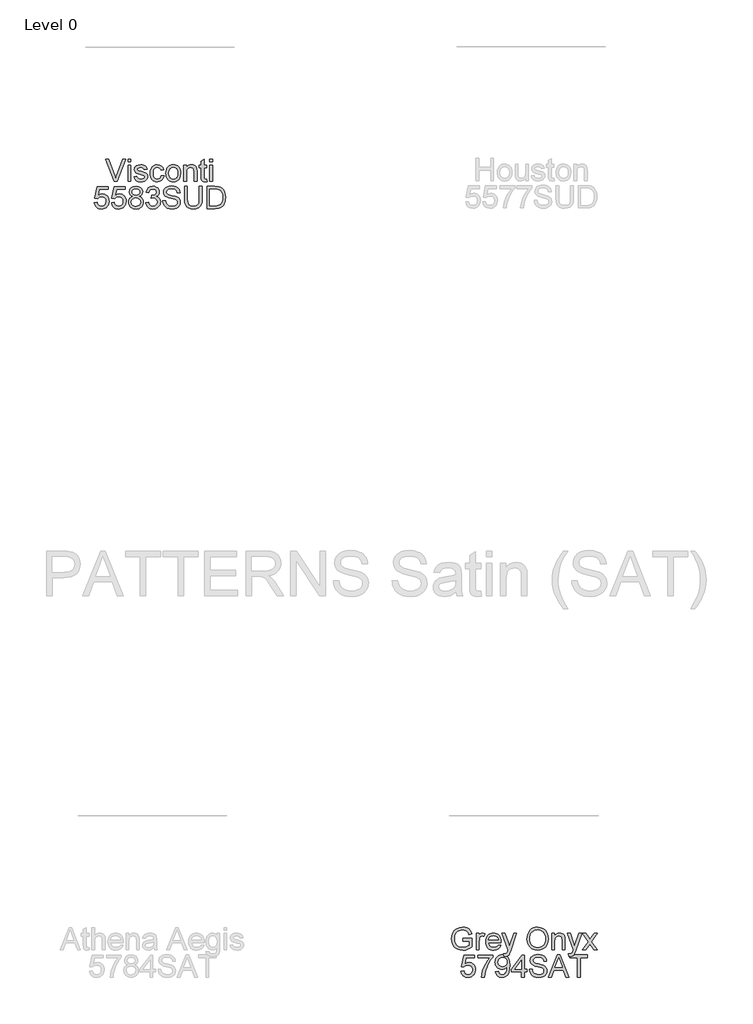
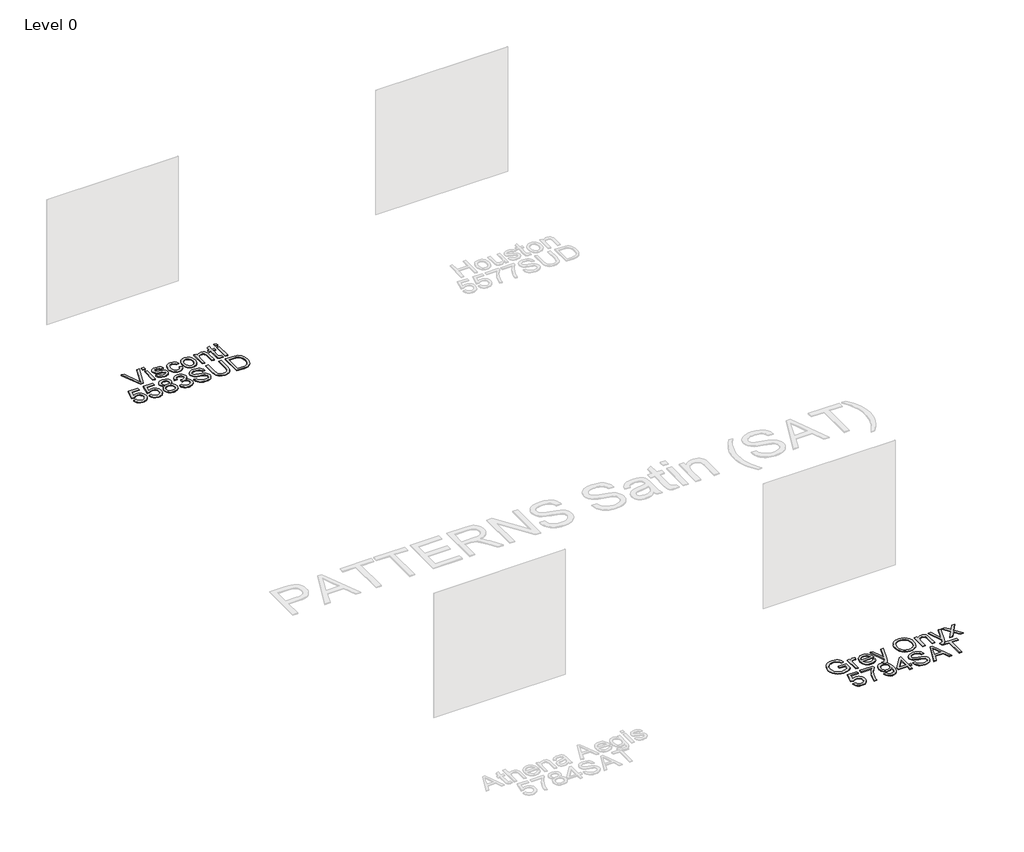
# One storey, part 6 of 29: 2 proxies.
"""IFC4 building model written with IfcOpenShell, lengths in millimetres."""

from ifc_helpers import new_model, si_unit, origin, origin_with_axes, place, context, project, spatial, polyline, outline, extrude, element, save

model = new_model("IFC4")

# Units and contexts
model_context = context("Model", 3, world=origin())
ifc_project = project(units=[si_unit("LENGTHUNIT", "METRE", prefix="MILLI")], contexts=[model_context])

# Site, building, storey
site = spatial("IfcSite", under=ifc_project)
building = spatial("IfcBuilding", under=site)
storey = spatial("IfcBuildingStorey", under=building, Name="Level 0", Elevation=0.0)

# Proxies
placement = place(None, origin())
element("IfcBuildingElementProxy", 1, Name="300mm Arial", ObjectType="300mm Arial", at=placement, inside=storey, context=model_context, shape_type="SweptSolid", body=[
    extrude(outline(polyline([(-9963.2551547, -17022.860494), (-10083.1846851, -16721.4915635), (-10042.8648184, -16721.4915635), (-9962.5929671, -16938.6155171), (-9946.3325829, -16987.5438224), (-9930.2929279, -16938.6155171), (-9849.8003474, -16721.4915635), (-9809.4804807, -16721.4915635), (-9924.3332396, -17022.860494), (-9963.2551547, -17022.860494)])), origin_with_axes(), (0.0, 0.0, 1.0), 10.0),
    extrude(outline(polyline([(-9779.1670043, -17022.860494), (-9779.1670043, -16801.5426857), (-9741.495888, -16801.5426857), (-9741.495888, -17022.860494), (-9779.1670043, -17022.860494)])), origin_with_axes(), (0.0, 0.0, 1.0), 10.0),
    extrude(outline(polyline([(-9779.1670043, -16759.1626798), (-9779.1670043, -16721.4915635), (-9741.495888, -16721.4915635), (-9741.495888, -16759.1626798), (-9779.1670043, -16759.1626798)])), origin_with_axes(), (0.0, 0.0, 1.0), 10.0),
    extrude(outline(polyline([(-9699.1158821, -16956.9360404), (-9661.4447658, -16952.2271509), (-9655.5034716, -16968.3403823), (-9644.0071593, -16980.1861825), (-9626.8822524, -16987.470246), (-9604.0551746, -16989.8982672), (-9581.5040083, -16987.6725811), (-9565.6482943, -16980.9955229), (-9556.2673034, -16971.3202265), (-9553.1403065, -16960.0998256), (-9556.2856975, -16950.4981055), (-9565.7218707, -16943.1772538), (-9604.496633, -16932.4350996), (-9661.2240366, -16914.0042116), (-9675.5806315, -16904.7427824), (-9685.9824949, -16892.4831149), (-9692.3008682, -16878.0069584), (-9694.4069926, -16862.0960621), (-9692.7147354, -16847.5003439), (-9687.6379639, -16834.0266659), (-9679.6365305, -16822.2084568), (-9669.1702877, -16812.5791455), (-9645.2211698, -16801.4323211), (-9612.8107661, -16796.8337961), (-9588.2914311, -16798.6824032), (-9566.9726695, -16804.2282242), (-9549.8293685, -16812.9286334), (-9537.8364155, -16824.2410048), (-9529.8901644, -16839.0022698), (-9524.8869692, -16858.0493601), (-9562.5580855, -16862.7582497), (-9567.3129603, -16850.9032524), (-9576.7215423, -16841.972917), (-9590.8758021, -16836.3719136), (-9609.8677101, -16834.5049125), (-9631.4991714, -16836.2891401), (-9645.9201456, -16841.6418232), (-9654.0319436, -16849.3673451), (-9656.7358763, -16858.2700893), (-9652.247716, -16869.2329728), (-9638.1946237, -16877.5471059), (-9605.7474318, -16885.5669334), (-9550.4547679, -16903.2988455), (-9535.8498527, -16911.7785255), (-9524.7766046, -16923.3852025), (-9517.7960438, -16938.1556646), (-9515.4691901, -16956.1267001), (-9518.200714, -16974.7047408), (-9526.3952854, -16992.1791356), (-9539.7402048, -17007.1795239), (-9557.9227724, -17018.3355454), (-9579.8853275, -17025.260924), (-9604.5702094, -17027.5693835), (-9642.5540254, -17023.1180114), (-9670.2739337, -17009.763895), (-9688.7783981, -16987.654187), (-9699.1158821, -16956.9360404)])), origin_with_axes(), (0.0, 0.0, 1.0), 10.0),
    extrude(outline(polyline([(-9331.8224982, -16942.8093718), (-9294.1513818, -16947.5182614), (-9304.6544128, -16981.0231141), (-9324.3912819, -17006.3425924), (-9351.5041849, -17022.2626857), (-9384.1353179, -17027.5693835), (-9405.2632407, -17025.7184772), (-9424.2068642, -17020.1657584), (-9440.9661883, -17010.9112269), (-9455.5412131, -16997.9548829), (-9467.3387289, -16981.5404481), (-9475.7655258, -16961.9116444), (-9480.821604, -16939.0684718), (-9482.5069634, -16913.0109302), (-9479.6282868, -16879.4876834), (-9470.9922569, -16850.4342028), (-9456.4609181, -16826.9725286), (-9435.8963146, -16810.2247008), (-9411.2942062, -16800.1815223), (-9384.6503527, -16796.8337961), (-9352.819363, -16801.4323211), (-9327.371126, -16815.2278959), (-9309.114982, -16837.4847566), (-9298.8602714, -16867.4671392), (-9336.5313877, -16872.1760288), (-9343.3647958, -16855.7409006), (-9354.0057825, -16843.9594797), (-9367.8657366, -16836.8685543), (-9384.3560471, -16834.5049125), (-9408.7006381, -16839.1586197), (-9428.0236399, -16853.1197414), (-9440.6327953, -16877.1424357), (-9444.8358471, -16911.9808606), (-9440.7247658, -16947.2883351), (-9428.3915219, -16971.3938029), (-9409.418008, -16985.2721511), (-9385.3861167, -16989.8982672), (-9365.8791739, -16987.0103936), (-9349.8855041, -16978.3467726), (-9338.251236, -16963.6866751), (-9331.8224982, -16942.8093718)])), origin_with_axes(), (0.0, 0.0, 1.0), 10.0),
    extrude(outline(polyline([(-9270.6069342, -16912.2015898), (-9268.5697876, -16883.5389839), (-9262.458348, -16858.8403064), (-9252.2726152, -16838.1055575), (-9238.0125894, -16821.334737), (-9223.6559945, -16810.6155754), (-9207.8094776, -16802.9590314), (-9190.4730386, -16798.3651049), (-9171.6466775, -16796.8337961), (-9150.863644, -16798.698498), (-9132.0717718, -16804.2926036), (-9115.271061, -16813.6161129), (-9100.4615114, -16826.669026), (-9088.3742886, -16843.0098843), (-9079.740558, -16862.1972296), (-9074.5603197, -16884.2310619), (-9072.8335735, -16909.1113811), (-9075.8869941, -16947.1687735), (-9085.0472558, -16976.1394806), (-9100.0476441, -16997.8353213), (-9120.6214447, -17014.0681143), (-9145.0580063, -17024.1940662), (-9171.6466775, -17027.5693835), (-9192.7332136, -17025.7115794), (-9211.6998297, -17020.1381672), (-9228.5465258, -17010.8491468), (-9243.2733019, -16997.8445183), (-9255.231766, -16981.3450108), (-9263.7735261, -16961.5713536), (-9268.8985821, -16938.5235466), (-9270.6069342, -16912.2015898)]), holes=[polyline([(-9232.9358179, -16912.1280134), (-9228.5764162, -16946.2214773), (-9215.4982113, -16970.5108861), (-9195.8165245, -16985.0514219), (-9171.6466775, -16989.8982672), (-9147.587195, -16985.0238308), (-9127.9422964, -16970.4005215), (-9114.8640915, -16945.789216), (-9110.5046899, -16910.950791), (-9114.8916826, -16877.8506085), (-9128.052661, -16853.8922936), (-9147.7251507, -16839.3517577), (-9171.6466775, -16834.5049125), (-9195.8165245, -16839.3333636), (-9215.4982113, -16853.8187172), (-9228.5764162, -16878.0529436), (-9232.9358179, -16912.1280134)])]), origin_with_axes(), (0.0, 0.0, 1.0), 10.0),
    extrude(outline(polyline([(-9030.4535677, -17022.860494), (-9030.4535677, -16801.5426857), (-8992.7824514, -16801.5426857), (-8992.7824514, -16832.4447733), (-8979.6950494, -16816.8649708), (-8963.9772912, -16805.7365404), (-8945.6291767, -16799.0594822), (-8924.6507059, -16796.8337961), (-8906.0818622, -16798.6272209), (-8889.076517, -16804.0074951), (-8874.894666, -16812.303234), (-8864.7963053, -16822.8430532), (-8853.502328, -16850.5445674), (-8851.5157653, -16886.964885), (-8851.5157653, -17022.860494), (-8889.1868816, -17022.860494), (-8889.1868816, -16892.0416565), (-8893.5278891, -16858.7115477), (-8899.5335627, -16848.7879309), (-8908.8685683, -16841.0900002), (-8920.8339302, -16836.1511844), (-8934.7306726, -16834.5049125), (-8956.7943952, -16838.2021265), (-8975.6023622, -16849.2937687), (-8983.1186512, -16858.3482643), (-8988.4874291, -16870.7228949), (-8992.7824514, -16905.4325611), (-8992.7824514, -17022.860494), (-9030.4535677, -17022.860494)])), origin_with_axes(), (0.0, 0.0, 1.0), 10.0),
    extrude(outline(polyline([(-8719.6668582, -16991.4433716), (-8714.9579686, -17023.96414), (-8743.1377295, -17027.5693835), (-8761.2191295, -17026.005885), (-8774.7020047, -17021.3153896), (-8784.2301483, -17014.0865084), (-8790.4473541, -17004.9078526), (-8793.8686566, -16989.1441091), (-8795.0090908, -16962.1599648), (-8795.0090908, -16839.213802), (-8823.262428, -16839.213802), (-8823.262428, -16801.5426857), (-8795.0090908, -16801.5426857), (-8795.0090908, -16747.758338), (-8757.3379745, -16725.6118419), (-8757.3379745, -16801.5426857), (-8719.6668582, -16801.5426857), (-8719.6668582, -16839.213802), (-8757.3379745, -16839.213802), (-8757.3379745, -16961.0563188), (-8755.3514117, -16980.4804881), (-8748.9134768, -16987.3598814), (-8736.0743952, -16989.8982672), (-8719.6668582, -16991.4433716)])), origin_with_axes(), (0.0, 0.0, 1.0), 10.0),
    extrude(outline(polyline([(-8681.9957419, -17022.860494), (-8681.9957419, -16801.5426857), (-8644.3246256, -16801.5426857), (-8644.3246256, -17022.860494), (-8681.9957419, -17022.860494)])), origin_with_axes(), (0.0, 0.0, 1.0), 10.0),
    extrude(outline(polyline([(-8681.9957419, -16759.1626798), (-8681.9957419, -16721.4915635), (-8644.3246256, -16721.4915635), (-8644.3246256, -16759.1626798), (-8681.9957419, -16759.1626798)])), origin_with_axes(), (0.0, 0.0, 1.0), 10.0),
    extrude(outline(polyline([(-10233.5748447, -17308.7338254), (-10195.9037284, -17304.0249358), (-10188.9875469, -17326.6404815), (-10176.9210175, -17342.8364863), (-10159.7593224, -17352.5761621), (-10137.557644, -17355.8227207), (-10110.5551055, -17351.3069693), (-10090.3215958, -17337.7597148), (-10077.6848493, -17316.7444558), (-10073.4726004, -17289.8246908), (-10077.4181348, -17264.4776213), (-10089.254738, -17245.0902402), (-10109.0743805, -17232.7845875), (-10136.9690328, -17228.6827032), (-10155.2435709, -17230.3197781), (-10170.0416242, -17235.2310027), (-10191.1948389, -17252.2271509), (-10228.8659552, -17247.5182614), (-10195.9037284, -17092.1249066), (-10049.9281527, -17092.1249066), (-10049.9281527, -17129.7960229), (-10165.4430992, -17129.7960229), (-10181.5563306, -17212.790201), (-10154.6457627, -17196.4562404), (-10126.4476077, -17191.0115869), (-10108.1017925, -17192.6992456), (-10091.2504978, -17197.7622215), (-10075.8937238, -17206.2005148), (-10062.0314704, -17218.0141254), (-10050.5558514, -17232.4810848), (-10042.3589807, -17248.8794248), (-10037.4408583, -17267.2091452), (-10035.8014841, -17287.470246), (-10041.7059901, -17325.1413624), (-10049.0866227, -17341.9351754), (-10059.4195082, -17357.3678251), (-10075.0728871, -17373.1729553), (-10093.3382282, -17384.4623341), (-10114.2155314, -17391.2359613), (-10137.7047968, -17393.4938371), (-10174.7045285, -17387.6904986), (-10190.3831992, -17380.4363255), (-10204.1810733, -17370.2804832), (-10215.6612908, -17357.7288093), (-10224.3869919, -17343.2871418), (-10233.5748447, -17308.7338254)])), origin_with_axes(), (0.0, 0.0, 1.0), 10.0),
    extrude(outline(polyline([(-10002.8392574, -17308.7338254), (-9965.1681411, -17304.0249358), (-9958.2519595, -17326.6404815), (-9946.1854301, -17342.8364863), (-9929.023735, -17352.5761621), (-9906.8220566, -17355.8227207), (-9879.8195182, -17351.3069693), (-9859.5860084, -17337.7597148), (-9846.9492619, -17316.7444558), (-9842.7370131, -17289.8246908), (-9846.6825475, -17264.4776213), (-9858.5191506, -17245.0902402), (-9878.3387931, -17232.7845875), (-9906.2334454, -17228.6827032), (-9924.5079835, -17230.3197781), (-9939.3060368, -17235.2310027), (-9960.4592515, -17252.2271509), (-9998.1303678, -17247.5182614), (-9965.1681411, -17092.1249066), (-9819.1925654, -17092.1249066), (-9819.1925654, -17129.7960229), (-9934.7075119, -17129.7960229), (-9950.8207432, -17212.790201), (-9923.9101753, -17196.4562404), (-9895.7120204, -17191.0115869), (-9877.3662051, -17192.6992456), (-9860.5149105, -17197.7622215), (-9845.1581364, -17206.2005148), (-9831.295883, -17218.0141254), (-9819.820264, -17232.4810848), (-9811.6233933, -17248.8794248), (-9806.7052709, -17267.2091452), (-9805.0658967, -17287.470246), (-9810.9704028, -17325.1413624), (-9818.3510353, -17341.9351754), (-9828.6839208, -17357.3678251), (-9844.3372997, -17373.1729553), (-9862.6026408, -17384.4623341), (-9883.479944, -17391.2359613), (-9906.9692094, -17393.4938371), (-9943.9689411, -17387.6904986), (-9959.6476119, -17380.4363255), (-9973.4454859, -17370.2804832), (-9984.9257035, -17357.7288093), (-9993.6514045, -17343.2871418), (-10002.8392574, -17308.7338254)])), origin_with_axes(), (0.0, 0.0, 1.0), 10.0),
    extrude(outline(polyline([(-9717.2156763, -17222.7965913), (-9737.3848067, -17212.8637774), (-9751.5390665, -17199.3992964), (-9759.8991848, -17182.6790597), (-9762.6858909, -17162.9789789), (-9761.1683777, -17147.6153071), (-9756.615838, -17133.5300252), (-9749.0282718, -17120.7231332), (-9738.4056792, -17109.1946312), (-9725.2584964, -17099.6664875), (-9710.0971597, -17092.8606706), (-9673.7320245, -17087.4160171), (-9637.1461601, -17092.9894293), (-9621.8192764, -17099.9561946), (-9608.4697585, -17109.709666), (-9597.6540279, -17121.4634957), (-9589.928506, -17134.4313361), (-9585.2931928, -17148.613187), (-9583.7480885, -17164.0090485), (-9586.4980064, -17183.0745329), (-9594.7477601, -17199.509661), (-9608.5893202, -17212.8913686), (-9628.1146571, -17222.7965913), (-9604.9288943, -17234.7435591), (-9588.0523078, -17252.3375155), (-9577.760809, -17274.732332), (-9574.3303094, -17301.0818799), (-9576.0317636, -17319.8714528), (-9581.1361263, -17337.0975272), (-9589.6433974, -17352.7601031), (-9601.553577, -17366.8591806), (-9616.2412657, -17378.5118428), (-9633.081064, -17386.8351729), (-9652.072972, -17391.829171), (-9673.2169897, -17393.4938371), (-9694.3610074, -17391.8222732), (-9713.3529154, -17386.8075818), (-9730.1927137, -17378.4497627), (-9744.8804023, -17366.748816), (-9756.7905819, -17352.5508703), (-9765.2978531, -17336.702054), (-9770.4022158, -17319.2023674), (-9772.10367, -17300.0518103), (-9768.5352146, -17272.6813898), (-9757.8298486, -17250.1670117), (-9740.5393948, -17233.2812282), (-9717.2156763, -17222.7965913)]), holes=[polyline([(-9734.4325537, -17298.7274351), (-9728.1417716, -17327.0911369), (-9719.4321653, -17339.2588339), (-9705.8849109, -17348.317928), (-9689.6613149, -17353.9465226), (-9672.9226841, -17355.8227207), (-9647.281309, -17351.8771864), (-9628.0410807, -17340.0405832), (-9616.0113394, -17322.1155329), (-9612.0014257, -17299.9046575), (-9616.1400981, -17277.316703), (-9628.5561155, -17258.9961796), (-9648.2378022, -17246.8560738), (-9674.1734829, -17242.8093718), (-9699.456173, -17246.8008915), (-9718.5032633, -17258.7754504), (-9730.4502311, -17276.7464859), (-9734.4325537, -17298.7274351)]), polyline([(-9725.0147746, -17164.0826249), (-9721.6762455, -17180.52695), (-9711.6606582, -17193.6603373), (-9695.2623182, -17202.268776), (-9672.7755313, -17205.1382555), (-9650.8129762, -17202.2871701), (-9634.6629566, -17193.7339137), (-9624.7301427, -17181.0419848), (-9621.4192048, -17165.774882), (-9624.8405073, -17149.9283651), (-9635.104415, -17136.822569), (-9651.4751638, -17128.0209923), (-9673.2169897, -17125.0871334), (-9695.0967713, -17127.9566129), (-9711.439929, -17136.5650516), (-9721.6210632, -17149.1834041), (-9725.0147746, -17164.0826249)])]), origin_with_axes(), (0.0, 0.0, 1.0), 10.0),
    extrude(outline(polyline([(-9541.3680826, -17308.7338254), (-9503.6969663, -17304.0249358), (-9495.2632716, -17327.6981422), (-9482.9116336, -17343.6826149), (-9466.035047, -17352.7876943), (-9444.0265067, -17355.8227207), (-9418.2011906, -17351.6472601), (-9398.2619865, -17339.1208782), (-9385.5148754, -17320.4324728), (-9381.2658383, -17297.7709419), (-9385.4780872, -17276.2590422), (-9398.1148337, -17258.8122386), (-9417.2446974, -17247.2515469), (-9440.9362979, -17243.397983), (-9467.3502252, -17247.5182614), (-9463.1563704, -17209.8471451), (-9457.1231057, -17210.2886035), (-9434.5535453, -17207.5846708), (-9414.3752179, -17199.4728728), (-9400.1381847, -17185.7508744), (-9395.3925069, -17166.2163404), (-9398.8322036, -17149.9467592), (-9409.1512935, -17136.7489926), (-9424.8966429, -17128.0025982), (-9444.6151179, -17125.0871334), (-9464.370381, -17128.0301893), (-9480.5204006, -17136.8593572), (-9492.3110186, -17151.574637), (-9498.9880768, -17172.1760288), (-9536.6591931, -17167.4671392), (-9525.5675509, -17133.6403898), (-9505.8306819, -17108.3852908), (-9478.8281434, -17092.6583355), (-9445.9394931, -17087.4160171), (-9422.2570896, -17090.0003881), (-9400.5060667, -17097.7535011), (-9382.1671492, -17109.9855775), (-9368.7210623, -17126.0068384), (-9360.4713085, -17144.4653175), (-9357.7213906, -17164.0090485), (-9360.3333528, -17182.2192072), (-9368.1692393, -17198.7371088), (-9381.1186855, -17212.8085951), (-9399.0713269, -17223.6795081), (-9375.490091, -17233.2076518), (-9358.0156962, -17249.4312477), (-9347.1999656, -17271.4673793), (-9343.594722, -17298.4331295), (-9345.3973438, -17317.5445992), (-9350.8052091, -17335.1477526), (-9359.818318, -17351.2425899), (-9372.4366704, -17365.829111), (-9387.8095393, -17377.9324287), (-9405.0861975, -17386.5776555), (-9424.266645, -17391.7647917), (-9445.3508819, -17393.4938371), (-9464.4071692, -17392.0177105), (-9481.7711994, -17387.589331), (-9497.4429724, -17380.2086985), (-9511.4224882, -17369.875813), (-9523.1441283, -17357.1976797), (-9532.042274, -17342.781304), (-9538.1169255, -17326.6266859), (-9541.3680826, -17308.7338254)])), origin_with_axes(), (0.0, 0.0, 1.0), 10.0),
    extrude(outline(polyline([(-9310.6324952, -17285.1893777), (-9272.9613789, -17285.1893777), (-9268.6387655, -17306.0942721), (-9260.8212731, -17322.8972822), (-9248.6259849, -17336.2330045), (-9231.1699843, -17346.7360355), (-9209.8328286, -17353.5510494), (-9185.9940753, -17355.8227207), (-9165.0064074, -17354.1028724), (-9146.6307018, -17348.9433274), (-9131.740678, -17340.7763471), (-9121.2100559, -17330.0341929), (-9114.9468649, -17317.700949), (-9112.8591346, -17304.7606998), (-9114.4226331, -17292.1515444), (-9119.1131285, -17281.2530403), (-9128.6412722, -17271.9548229), (-9144.7177154, -17264.1465276), (-9199.5689209, -17249.7623415), (-9235.5753712, -17240.2433949), (-9258.6139811, -17231.1843008), (-9277.3667658, -17218.510766), (-9290.6565029, -17203.1516928), (-9298.5751628, -17185.4381747), (-9301.2147162, -17165.7013056), (-9297.9497634, -17143.637583), (-9288.1549053, -17123.0637824), (-9272.0876592, -17105.6261758), (-9250.0055424, -17092.9710352), (-9223.4996447, -17085.2731044), (-9194.1610556, -17082.7071275), (-9162.3760512, -17085.3926661), (-9134.5641723, -17093.4492818), (-9111.7187004, -17106.7114277), (-9094.8329169, -17125.013557), (-9084.1459449, -17147.2152354), (-9079.8969079, -17172.1760288), (-9117.5680242, -17172.1760288), (-9124.4842057, -17149.6984389), (-9138.9051799, -17133.4748429), (-9161.4379521, -17123.6523936), (-9192.6895276, -17120.3782438), (-9224.6768671, -17123.6156054), (-9246.6210281, -17133.3276901), (-9259.3129569, -17147.6199056), (-9263.5435998, -17164.5976597), (-9260.5453616, -17179.0738162), (-9251.5506468, -17190.7172813), (-9230.2870675, -17201.1283418), (-9190.0407772, -17211.7601314), (-9148.5069, -17221.8584922), (-9123.3805597, -17230.669266), (-9101.9054482, -17244.3360821), (-9086.923454, -17261.2034716), (-9078.1218772, -17281.0874934), (-9075.1880183, -17303.8042066), (-9078.5633356, -17327.0267576), (-9088.6892875, -17348.869751), (-9105.1520068, -17367.668521), (-9127.5376262, -17381.7584014), (-9154.4573912, -17390.5599781), (-9184.5225473, -17393.4938371), (-9221.4303085, -17390.3300519), (-9251.8081642, -17380.8386964), (-9276.0056024, -17364.9829824), (-9294.372111, -17342.7261217), (-9306.162729, -17315.6132187), (-9310.6324952, -17285.1893777)])), origin_with_axes(), (0.0, 0.0, 1.0), 10.0),
    extrude(outline(polyline([(-8820.9079833, -17087.4160171), (-8783.2368669, -17087.4160171), (-8783.2368669, -17261.277048), (-8785.7936468, -17301.9923878), (-8793.4639864, -17333.3451308), (-8807.7929901, -17357.533372), (-8830.3257623, -17376.7552063), (-8861.1174853, -17389.3091794), (-8900.2233414, -17393.4938371), (-8938.4738719, -17389.8518053), (-8969.0540627, -17378.92571), (-8991.973111, -17361.0926303), (-9007.2402138, -17336.7296452), (-9015.8210613, -17304.052527), (-9018.6813439, -17261.277048), (-9018.6813439, -17087.4160171), (-8981.0102276, -17087.4160171), (-8981.0102276, -17259.9526728), (-8979.1524235, -17293.8070134), (-8973.5790113, -17317.3790523), (-8963.4806505, -17333.7038158), (-8948.0480008, -17345.8163305), (-8927.9248556, -17353.3211232), (-8903.7550086, -17355.8227207), (-8865.4400988, -17350.8747079), (-8851.0972995, -17344.6896919), (-8839.9642706, -17336.0306694), (-8831.6271449, -17323.8537754), (-8825.6720551, -17307.1151446), (-8820.9079833, -17259.9526728), (-8820.9079833, -17087.4160171)])), origin_with_axes(), (0.0, 0.0, 1.0), 10.0),
    extrude(outline(polyline([(-8717.3124134, -17388.7849475), (-8717.3124134, -17087.4160171), (-8613.3489616, -17087.4160171), (-8559.5646139, -17091.7570246), (-8535.5419196, -17100.12634), (-8515.2716217, -17113.3149095), (-8494.4311066, -17136.270746), (-8479.5870681, -17164.8183889), (-8470.7027179, -17198.406015), (-8467.7412679, -17236.4818015), (-8469.7462248, -17268.8278259), (-8475.7610954, -17297.2926953), (-8484.9213571, -17321.5269217), (-8496.3624871, -17341.1810173), (-8509.5326625, -17356.6964405), (-8523.8800603, -17368.5146496), (-8540.3519767, -17377.2794381), (-8559.8957077, -17383.6345996), (-8608.3457664, -17388.7849475), (-8717.3124134, -17388.7849475)]), holes=[polyline([(-8679.6412971, -17351.1138312), (-8612.9810796, -17351.1138312), (-8585.408324, -17349.7526678), (-8564.4942326, -17345.6691777), (-8548.712095, -17339.1024841), (-8536.535201, -17330.2917103), (-8523.447799, -17313.9853408), (-8513.6161527, -17292.8781114), (-8507.4633263, -17266.8780514), (-8505.4123842, -17235.8931903), (-8509.431495, -17194.8375597), (-8521.4888274, -17164.5240833), (-8539.303513, -17143.7019623), (-8560.5946835, -17131.1203981), (-8582.262933, -17126.5954496), (-8614.0111492, -17125.0871334), (-8679.6412971, -17125.0871334), (-8679.6412971, -17351.1138312)])]), origin_with_axes(), (0.0, 0.0, 1.0), 10.0),
])
element("IfcBuildingElementProxy", 2, Name="300mm Arial", ObjectType="300mm Arial", at=placement, inside=storey, context=model_context, shape_type="SweptSolid", body=[
    extrude(outline(polyline([(-5270.004836, -27244.2231961), (-5270.004836, -27206.5520798), (-5147.573708, -27206.5520798), (-5147.573708, -27319.1975467), (-5177.3261643, -27339.8909089), (-5208.0167198, -27354.7349474), (-5239.5717979, -27363.6744799), (-5271.9178223, -27366.6543241), (-5314.1782665, -27361.9178434), (-5352.3736147, -27347.7084013), (-5384.1034368, -27324.5226386), (-5406.9673028, -27292.8571959), (-5420.7904687, -27254.8733799), (-5425.3981907, -27212.7324973), (-5420.8088628, -27170.2881121), (-5407.0408792, -27130.805177), (-5384.6644568, -27097.6866004), (-5354.2498129, -27074.3352907), (-5317.2040959, -27060.4845336), (-5274.9344547, -27055.8676146), (-5243.9036084, -27058.5439561), (-5215.9997591, -27066.5729806), (-5192.5012966, -27079.3752741), (-5174.686611, -27096.3714222), (-5161.5072385, -27118.3799626), (-5151.9147155, -27146.2194326), (-5186.6427759, -27156.0050937), (-5194.3958889, -27136.148663), (-5203.822865, -27121.1666687), (-5216.2940647, -27109.8726915), (-5233.1798482, -27101.0803118), (-5253.3121904, -27095.4241261), (-5275.5230659, -27093.5387309), (-5301.5231259, -27095.5712789), (-5323.7523955, -27101.668923), (-5342.1281011, -27111.0683079), (-5356.5674694, -27123.0060787), (-5375.9548506, -27152.0319681), (-5384.7840185, -27180.4692463), (-5387.7270744, -27211.1873929), (-5384.1862102, -27247.2122373), (-5373.5636176, -27276.8543291), (-5356.1811933, -27299.9021361), (-5332.3608341, -27316.1441262), (-5304.484576, -27325.7734374), (-5274.9344547, -27328.9832078), (-5248.8424242, -27326.5643837), (-5223.3941872, -27319.3079113), (-5201.2936763, -27309.3107181), (-5185.2448243, -27298.6697314), (-5185.2448243, -27244.2231961), (-5270.004836, -27244.2231961)])), origin_with_axes(), (0.0, 0.0, 1.0), 10.0),
    extrude(outline(polyline([(-5091.0670335, -27361.9454346), (-5091.0670335, -27140.6276263), (-5058.1048067, -27140.6276263), (-5058.1048067, -27173.3691238), (-5045.9279127, -27154.3864129), (-5034.7075119, -27143.2028002), (-5023.4503228, -27137.7397526), (-5011.1630642, -27135.9187367), (-4992.4010824, -27138.8250045), (-4973.3447951, -27147.5438078), (-4985.9263593, -27181.3153749), (-4999.1701111, -27175.5212335), (-5012.4138629, -27173.589853), (-5023.6618549, -27175.4476571), (-5033.7142305, -27181.0210693), (-5041.8352255, -27189.8870254), (-5047.2890761, -27201.6224611), (-5051.8692069, -27222.6653112), (-5053.3959172, -27245.6211477), (-5053.3959172, -27361.9454346), (-5091.0670335, -27361.9454346)])), origin_with_axes(), (0.0, 0.0, 1.0), 10.0),
    extrude(outline(polyline([(-4794.848451, -27296.020981), (-4757.9130987, -27300.7298706), (-4771.2212299, -27328.5601435), (-4792.457218, -27349.3638703), (-4821.1428166, -27362.3317106), (-4856.799779, -27366.6543241), (-4880.1740813, -27364.7896222), (-4901.0008007, -27359.1955166), (-4919.2799373, -27349.8720073), (-4935.0114912, -27336.8190943), (-4947.6620333, -27320.400061), (-4956.6981348, -27300.9781909), (-4962.1197957, -27278.553484), (-4963.927016, -27253.1259404), (-4962.1014016, -27226.8361733), (-4956.6245584, -27203.6642061), (-4947.4964864, -27183.6100389), (-4934.7171856, -27166.6736715), (-4919.0270185, -27153.2183875), (-4901.1663476, -27143.6074704), (-4881.135173, -27137.8409201), (-4858.9334946, -27135.9187367), (-4837.4468868, -27137.8363216), (-4818.0158196, -27143.5890763), (-4800.6402932, -27153.1770008), (-4785.3203073, -27166.6000951), (-4772.8146187, -27183.4996743), (-4763.8819841, -27203.5170533), (-4758.5224032, -27226.6522323), (-4756.7358763, -27252.9052112), (-4756.9566055, -27263.0587542), (-4926.2558997, -27263.0587542), (-4919.7351913, -27291.2569092), (-4904.5876502, -27311.9870596), (-4882.7262626, -27324.7341707), (-4856.064015, -27328.9832078), (-4836.0144463, -27327.0150391), (-4819.1286627, -27321.1105331), (-4805.4066643, -27310.9018077), (-4794.848451, -27296.020981)]), holes=[polyline([(-4926.2558997, -27225.3876379), (-4794.4069926, -27225.3876379), (-4799.5021582, -27205.485222), (-4809.4901544, -27191.2481888), (-4831.4527095, -27178.004437), (-4859.0806474, -27173.589853), (-4884.4737021, -27177.1123231), (-4905.4705669, -27187.6797334), (-4920.0662851, -27204.1516498), (-4926.2558997, -27225.3876379)])]), origin_with_axes(), (0.0, 0.0, 1.0), 10.0),
    extrude(outline(polyline([(-4719.06476, -27446.7054462), (-4723.7736495, -27410.4322815), (-4704.6437858, -27413.7432195), (-4686.7647208, -27409.5861529), (-4675.8018374, -27397.9978701), (-4665.5011415, -27370.2595676), (-4662.5580855, -27361.1360942), (-4742.6092077, -27140.6276263), (-4702.8779522, -27140.6276263), (-4660.42437, -27263.5002126), (-4645.6355138, -27312.6492472), (-4630.8466575, -27269.2391718), (-4587.2158529, -27140.6276263), (-4547.778903, -27140.6276263), (-4624.8133928, -27367.2429353), (-4644.8261734, -27416.3919698), (-4655.0716869, -27432.0821369), (-4666.6783639, -27442.9530499), (-4680.161239, -27449.2990143), (-4696.0353471, -27451.4143358), (-4719.06476, -27446.7054462)])), origin_with_axes(), (0.0, 0.0, 1.0), 10.0),
    extrude(outline(polyline([(-4408.2780505, -27215.2340949), (-4405.7672558, -27179.8852337), (-4398.234872, -27148.5922714), (-4385.6808989, -27121.3552082), (-4368.1053366, -27098.174044), (-4346.5612472, -27079.6649811), (-4322.1016931, -27066.4442219), (-4294.7266741, -27058.5117664), (-4264.4361903, -27055.8676146), (-4224.90727, -27060.8340215), (-4189.4618397, -27075.7332423), (-4160.0312801, -27099.5168133), (-4138.5469716, -27131.1362708), (-4125.4135844, -27169.0649045), (-4121.0357886, -27211.7760041), (-4125.6435106, -27255.0573209), (-4139.4666766, -27293.5193834), (-4161.7419314, -27325.1940232), (-4191.7059199, -27348.1130715), (-4226.8478475, -27362.019011), (-4264.6569195, -27366.6543241), (-4304.7928452, -27361.5315673), (-4340.4406106, -27346.163297), (-4369.7975938, -27321.9382676), (-4391.0611731, -27290.2452337), (-4403.9738311, -27253.7789309), (-4408.2780505, -27215.2340949)]), holes=[polyline([(-4370.6069342, -27215.6019769), (-4368.7238382, -27240.5765658), (-4363.0745503, -27262.7460546), (-4353.6590705, -27282.1104431), (-4340.4773988, -27298.6697314), (-4324.4538386, -27311.9318773), (-4306.5126935, -27321.4048387), (-4286.6539636, -27327.0886155), (-4264.8776487, -27328.9832078), (-4242.7288534, -27327.0702214), (-4222.6355986, -27321.3312623), (-4204.5978846, -27311.7663304), (-4188.6157111, -27298.3754258), (-4175.5306084, -27281.4666496), (-4166.1841065, -27261.348103), (-4160.5762053, -27238.019786), (-4158.7069049, -27211.4816985), (-4161.9074783, -27178.1331957), (-4171.5091984, -27149.3096413), (-4187.2637448, -27125.7376025), (-4208.9227973, -27108.1436461), (-4235.051616, -27097.1899597), (-4264.2154612, -27093.5387309), (-4285.2353187, -27095.2976667), (-4304.7376629, -27100.574474), (-4322.722494, -27109.369153), (-4339.1898118, -27121.6817035), (-4352.9348028, -27138.1053353), (-4362.7526536, -27159.2332582), (-4368.643364, -27185.065472), (-4370.6069342, -27215.6019769)])]), origin_with_axes(), (0.0, 0.0, 1.0), 10.0),
    extrude(outline(polyline([(-4073.9468932, -27361.9454346), (-4073.9468932, -27140.6276263), (-4036.2757769, -27140.6276263), (-4036.2757769, -27171.5297138), (-4023.188375, -27155.9499114), (-4007.4706167, -27144.821481), (-3989.1225022, -27138.1444228), (-3968.1440314, -27135.9187367), (-3949.5751877, -27137.7121614), (-3932.5698425, -27143.0924356), (-3918.3879916, -27151.3881746), (-3908.2896308, -27161.9279938), (-3896.9956536, -27189.629508), (-3895.0090908, -27226.0498255), (-3895.0090908, -27361.9454346), (-3932.6802071, -27361.9454346), (-3932.6802071, -27231.1265971), (-3937.0212146, -27197.7964883), (-3943.0268882, -27187.8728715), (-3952.3618938, -27180.1749407), (-3964.3272557, -27175.2361249), (-3978.2239981, -27173.589853), (-4000.2877208, -27177.2870671), (-4019.0956878, -27188.3787092), (-4026.6119768, -27197.4332048), (-4031.9807546, -27209.8078354), (-4036.2757769, -27244.5175017), (-4036.2757769, -27361.9454346), (-4073.9468932, -27361.9454346)])), origin_with_axes(), (0.0, 0.0, 1.0), 10.0),
    extrude(outline(polyline([(-3843.2113059, -27446.7054462), (-3847.9201954, -27410.4322815), (-3828.7903317, -27413.7432195), (-3810.9112667, -27409.5861529), (-3799.9483832, -27397.9978701), (-3789.6476874, -27370.2595676), (-3786.7046314, -27361.1360942), (-3866.7557536, -27140.6276263), (-3827.0244981, -27140.6276263), (-3784.5709158, -27263.5002126), (-3769.7820596, -27312.6492472), (-3754.9932034, -27269.2391718), (-3711.3623988, -27140.6276263), (-3671.9254489, -27140.6276263), (-3748.9599387, -27367.2429353), (-3768.9727192, -27416.3919698), (-3779.2182328, -27432.0821369), (-3790.8249098, -27442.9530499), (-3804.3077849, -27449.2990143), (-3820.181893, -27451.4143358), (-3843.2113059, -27446.7054462)])), origin_with_axes(), (0.0, 0.0, 1.0), 10.0),
    extrude(outline(polyline([(-3664.2735034, -27361.9454346), (-3583.7809229, -27250.6979192), (-3659.5646139, -27140.6276263), (-3614.2415521, -27140.6276263), (-3577.6740818, -27193.6026336), (-3560.6043572, -27218.6186092), (-3545.815501, -27198.1643703), (-3504.1712591, -27140.6276263), (-3458.8481973, -27140.6276263), (-3538.4578611, -27250.6979192), (-3461.7912533, -27361.9454346), (-3507.1143151, -27361.9454346), (-3553.2467173, -27295.0644878), (-3561.7080032, -27282.8508056), (-3618.9504416, -27361.9454346), (-3664.2735034, -27361.9454346)])), origin_with_axes(), (0.0, 0.0, 1.0), 10.0),
    extrude(outline(polyline([(-5298.2581732, -27647.8187659), (-5260.5870569, -27643.1098764), (-5253.6708754, -27665.7254221), (-5241.6043459, -27681.9214269), (-5224.4426509, -27691.6611027), (-5202.2409725, -27694.9076613), (-5175.238434, -27690.3919098), (-5155.0049243, -27676.8446554), (-5142.3681777, -27655.8293964), (-5138.1559289, -27628.9096314), (-5142.1014633, -27603.5625619), (-5153.9380665, -27584.1751808), (-5173.757709, -27571.869528), (-5201.6523613, -27567.7676438), (-5219.9268994, -27569.4047187), (-5234.7249526, -27574.3159433), (-5255.8781674, -27591.3120915), (-5293.5492837, -27586.6032019), (-5260.5870569, -27431.2098472), (-5114.6114812, -27431.2098472), (-5114.6114812, -27468.8809635), (-5230.1264277, -27468.8809635), (-5246.2396591, -27551.8751416), (-5219.3290911, -27535.541181), (-5191.1309362, -27530.0965275), (-5172.785121, -27531.7841861), (-5155.9338263, -27536.8471621), (-5140.5770523, -27545.2854554), (-5126.7147988, -27557.0990659), (-5115.2391799, -27571.5660254), (-5107.0423092, -27587.9643653), (-5102.1241867, -27606.2940857), (-5100.4848126, -27626.5551866), (-5106.3893186, -27664.2263029), (-5113.7699511, -27681.020116), (-5124.1028367, -27696.4527657), (-5139.7562156, -27712.2578959), (-5158.0215566, -27723.5472746), (-5178.8988599, -27730.3209019), (-5202.3881253, -27732.5787776), (-5239.3878569, -27726.7754392), (-5255.0665277, -27719.5212661), (-5268.8644018, -27709.3654237), (-5280.3446193, -27696.8137499), (-5289.0703204, -27682.3720823), (-5298.2581732, -27647.8187659)])), origin_with_axes(), (0.0, 0.0, 1.0), 10.0),
    extrude(outline(polyline([(-5067.5225858, -27468.8809635), (-5067.5225858, -27431.2098472), (-4869.7492252, -27431.2098472), (-4869.7492252, -27461.6704764), (-4897.9381831, -27497.3458329), (-4925.8512295, -27542.7148799), (-4950.471732, -27593.6389451), (-4968.7830583, -27645.979356), (-4977.759379, -27685.1403943), (-4982.7625741, -27727.8698881), (-5020.4336904, -27727.8698881), (-5016.3593973, -27689.0399435), (-5005.4608932, -27642.8891472), (-4988.0324837, -27593.9700389), (-4964.3684744, -27546.8351583), (-4936.7405365, -27504.2252262), (-4907.4203415, -27468.8809635), (-5067.5225858, -27468.8809635)])), origin_with_axes(), (0.0, 0.0, 1.0), 10.0),
    extrude(outline(polyline([(-4832.0781089, -27652.5276555), (-4794.4069926, -27647.8187659), (-4787.9690577, -27669.2019069), (-4777.4844208, -27683.7608369), (-4763.2105994, -27692.1209552), (-4745.4051108, -27694.9076613), (-4729.4298352, -27693.1142366), (-4714.9076934, -27687.7339624), (-4702.841164, -27679.35545), (-4694.2327253, -27668.5673105), (-4681.9086785, -27635.8258129), (-4676.4640249, -27592.1214319), (-4676.6847541, -27584.763792), (-4689.7353679, -27600.6930824), (-4706.8142895, -27613.3114348), (-4726.6891143, -27621.5335974), (-4748.1274376, -27624.2743182), (-4766.0225974, -27622.6004552), (-4782.4784189, -27617.5788659), (-4797.4949021, -27609.2095505), (-4811.072047, -27597.492509), (-4822.3223382, -27583.0393451), (-4830.3582606, -27566.4616627), (-4835.179814, -27547.7594618), (-4836.7869984, -27526.9327423), (-4835.1016391, -27505.4116456), (-4830.0455609, -27486.0978409), (-4821.6187639, -27468.9913281), (-4809.8212482, -27454.0921073), (-4795.4853467, -27442.0209793), (-4779.4433924, -27433.398745), (-4761.6953854, -27428.2254045), (-4742.2413257, -27426.5009576), (-4714.1443383, -27430.437295), (-4688.5673426, -27442.246307), (-4667.1750046, -27461.3393826), (-4651.6319903, -27487.1279104), (-4642.1682259, -27522.7756758), (-4639.0136378, -27571.4464637), (-4642.1590289, -27623.0511106), (-4651.5952021, -27662.9387159), (-4667.2393839, -27692.9119015), (-4689.008801, -27714.7732891), (-4715.9653542, -27728.1274055), (-4747.1709444, -27732.5787776), (-4779.3790131, -27727.3272621), (-4805.0755705, -27711.5727157), (-4823.0466059, -27686.3084197), (-4832.0781089, -27652.5276555)]), holes=[polyline([(-4676.6847541, -27526.0498255), (-4680.7498502, -27500.5188151), (-4692.9451383, -27480.8739165), (-4711.872667, -27468.3475346), (-4736.1344846, -27464.1720739), (-4761.297613, -27468.6694313), (-4781.4575464, -27482.1615035), (-4794.7012982, -27502.8088805), (-4799.1158821, -27528.7721523), (-4794.9404215, -27552.0498855), (-4782.4140396, -27570.5267587), (-4762.7507469, -27582.5840911), (-4737.1645542, -27586.6032019), (-4713.0958746, -27582.5840911), (-4693.7176905, -27570.5267587), (-4680.9429882, -27551.3693039), (-4676.6847541, -27526.0498255)])]), origin_with_axes(), (0.0, 0.0, 1.0), 10.0),
    extrude(outline(polyline([(-4483.6202831, -27727.8698881), (-4483.6202831, -27657.236545), (-4620.1780797, -27657.236545), (-4620.1780797, -27619.5654287), (-4474.202504, -27431.2098472), (-4445.9491668, -27431.2098472), (-4445.9491668, -27619.5654287), (-4408.2780505, -27619.5654287), (-4408.2780505, -27657.236545), (-4445.9491668, -27657.236545), (-4445.9491668, -27727.8698881), (-4483.6202831, -27727.8698881)]), holes=[polyline([(-4483.6202831, -27619.5654287), (-4483.6202831, -27503.1675654), (-4573.8249483, -27619.5654287), (-4483.6202831, -27619.5654287)])]), origin_with_axes(), (0.0, 0.0, 1.0), 10.0),
    extrude(outline(polyline([(-4375.3158237, -27624.2743182), (-4337.6447074, -27624.2743182), (-4333.3220939, -27645.1792126), (-4325.5046015, -27661.9822228), (-4313.3093134, -27675.3179451), (-4295.8533127, -27685.820976), (-4274.516157, -27692.63599), (-4250.6774037, -27694.9076613), (-4229.6897359, -27693.187813), (-4211.3140302, -27688.028268), (-4196.4240065, -27679.8612877), (-4185.8933844, -27669.1191335), (-4179.6301934, -27656.7858896), (-4177.5424631, -27643.8456404), (-4179.1059616, -27631.236485), (-4183.796457, -27620.3379809), (-4193.3246007, -27611.0397635), (-4209.4010439, -27603.2314681), (-4264.2522494, -27588.8472821), (-4300.2586996, -27579.3283355), (-4323.2973096, -27570.2692414), (-4342.0500943, -27557.5957066), (-4355.3398314, -27542.2366333), (-4363.2584913, -27524.5231153), (-4365.8980446, -27504.7862462), (-4362.6330919, -27482.7225236), (-4352.8382338, -27462.148723), (-4336.7709877, -27444.7111164), (-4314.6888709, -27432.0559758), (-4288.1829731, -27424.358045), (-4258.844384, -27421.7920681), (-4227.0593796, -27424.4776067), (-4199.2475008, -27432.5342224), (-4176.4020289, -27445.7963683), (-4159.5162453, -27464.0984975), (-4148.8292734, -27486.300176), (-4144.5802363, -27511.2609693), (-4182.2513526, -27511.2609693), (-4189.1675341, -27488.7833794), (-4203.5885083, -27472.5597834), (-4226.1212806, -27462.7373342), (-4257.372856, -27459.4631844), (-4289.3601955, -27462.700546), (-4311.3043565, -27472.4126306), (-4323.9962854, -27486.7048461), (-4328.2269283, -27503.6826002), (-4325.2286901, -27518.1587567), (-4316.2339753, -27529.8022219), (-4294.9703959, -27540.2132823), (-4254.7241057, -27550.845072), (-4213.1902284, -27560.9434328), (-4188.0638882, -27569.7542066), (-4166.5887767, -27583.4210227), (-4151.6067824, -27600.2884122), (-4142.8052057, -27620.172434), (-4139.8713468, -27642.8891472), (-4143.2466641, -27666.1116981), (-4153.372616, -27687.9546916), (-4169.8353353, -27706.7534616), (-4192.2209547, -27720.843342), (-4219.1407197, -27729.6449187), (-4249.2058757, -27732.5787776), (-4286.1136369, -27729.4149925), (-4316.4914927, -27719.923637), (-4340.6889309, -27704.067923), (-4359.0554395, -27681.8110623), (-4370.8460575, -27654.6981592), (-4375.3158237, -27624.2743182)])), origin_with_axes(), (0.0, 0.0, 1.0), 10.0),
    extrude(outline(polyline([(-4118.4606147, -27727.8698881), (-3998.1632022, -27426.5009576), (-3966.0838923, -27426.5009576), (-3845.7864798, -27727.8698881), (-3885.5913117, -27727.8698881), (-3920.0986429, -27633.6920973), (-4044.222028, -27633.6920973), (-4078.6557828, -27727.8698881), (-4118.4606147, -27727.8698881)]), holes=[polyline([(-4030.389665, -27596.020981), (-3933.8574295, -27596.020981), (-3961.0071207, -27521.9295472), (-3982.1235473, -27464.1720739), (-4000.885529, -27515.4548241), (-4030.389665, -27596.020981)])]), origin_with_axes(), (0.0, 0.0, 1.0), 10.0),
    extrude(outline(polyline([(-3730.197957, -27727.8698881), (-3730.197957, -27464.1720739), (-3829.0846373, -27464.1720739), (-3829.0846373, -27426.5009576), (-3593.6401603, -27426.5009576), (-3593.6401603, -27464.1720739), (-3692.5268406, -27464.1720739), (-3692.5268406, -27727.8698881), (-3730.197957, -27727.8698881)])), origin_with_axes(), (0.0, 0.0, 1.0), 10.0),
])

save(model, "model.ifc")
